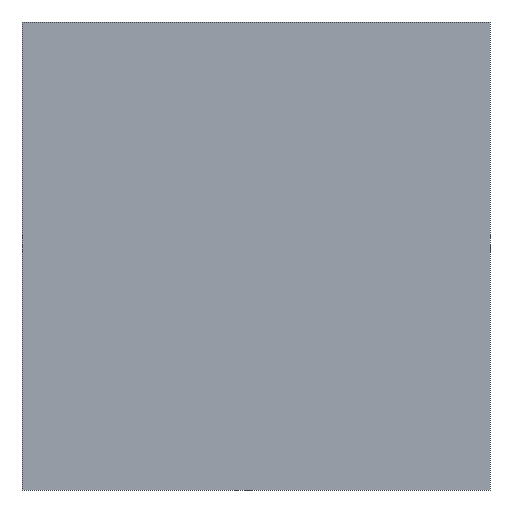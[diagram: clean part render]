
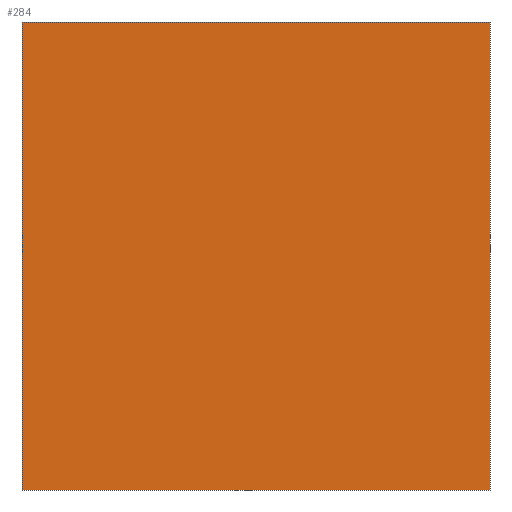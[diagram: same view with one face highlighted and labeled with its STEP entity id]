
A CAD part, left-side view. The second image highlights one B-rep face of the part: STEP entity #284.
In plain terms, the highlighted planar face has unit normal (-1, 0, 0).
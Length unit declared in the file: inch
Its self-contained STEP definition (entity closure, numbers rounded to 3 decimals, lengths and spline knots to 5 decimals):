
#22 = VERTEX_POINT('',#23);
#23 = CARTESIAN_POINT('',(-0.25,24.,24.));
#32 = PLANE('',#33);
#33 = AXIS2_PLACEMENT_3D('',#34,#35,#36);
#34 = CARTESIAN_POINT('',(-0.25,24.,24.));
#35 = DIRECTION('',(0.,1.,0.));
#36 = DIRECTION('',(0.,0.,-1.));
#44 = PLANE('',#45);
#45 = AXIS2_PLACEMENT_3D('',#46,#47,#48);
#46 = CARTESIAN_POINT('',(-0.25,-24.,24.));
#47 = DIRECTION('',(0.,0.,1.));
#48 = DIRECTION('',(0.,1.,0.));
#85 = VERTEX_POINT('',#86);
#86 = CARTESIAN_POINT('',(-0.25,24.,-24.));
#100 = PLANE('',#101);
#101 = AXIS2_PLACEMENT_3D('',#102,#103,#104);
#102 = CARTESIAN_POINT('',(-0.25,24.,-24.));
#103 = DIRECTION('',(0.,0.,-1.));
#104 = DIRECTION('',(0.,-1.,0.));
#112 = EDGE_CURVE('',#22,#85,#113,.T.);
#113 = SURFACE_CURVE('',#114,(#118,#125),.PCURVE_S1.);
#114 = LINE('',#115,#116);
#115 = CARTESIAN_POINT('',(-0.25,24.,24.));
#116 = VECTOR('',#117,0.03937);
#117 = DIRECTION('',(0.,0.,-1.));
#118 = PCURVE('',#32,#119);
#119 = DEFINITIONAL_REPRESENTATION('',(#120),#124);
#120 = LINE('',#121,#122);
#121 = CARTESIAN_POINT('',(0.,0.));
#122 = VECTOR('',#123,1.);
#123 = DIRECTION('',(1.,0.));
#124 = ( GEOMETRIC_REPRESENTATION_CONTEXT(2) 
PARAMETRIC_REPRESENTATION_CONTEXT() REPRESENTATION_CONTEXT('2D SPACE',''
  ) );
#125 = PCURVE('',#126,#131);
#126 = PLANE('',#127);
#127 = AXIS2_PLACEMENT_3D('',#128,#129,#130);
#128 = CARTESIAN_POINT('',(-0.25,24.,24.));
#129 = DIRECTION('',(1.,0.,0.));
#130 = DIRECTION('',(0.,1.,0.));
#131 = DEFINITIONAL_REPRESENTATION('',(#132),#136);
#132 = LINE('',#133,#134);
#133 = CARTESIAN_POINT('',(0.,0.));
#134 = VECTOR('',#135,1.);
#135 = DIRECTION('',(0.,-1.));
#136 = ( GEOMETRIC_REPRESENTATION_CONTEXT(2) 
PARAMETRIC_REPRESENTATION_CONTEXT() REPRESENTATION_CONTEXT('2D SPACE',''
  ) );
#142 = VERTEX_POINT('',#143);
#143 = CARTESIAN_POINT('',(-0.25,-24.,24.));
#159 = PLANE('',#160);
#160 = AXIS2_PLACEMENT_3D('',#161,#162,#163);
#161 = CARTESIAN_POINT('',(-0.25,-24.,-24.));
#162 = DIRECTION('',(0.,-1.,0.));
#163 = DIRECTION('',(0.,0.,1.));
#193 = EDGE_CURVE('',#142,#22,#194,.T.);
#194 = SURFACE_CURVE('',#195,(#199,#206),.PCURVE_S1.);
#195 = LINE('',#196,#197);
#196 = CARTESIAN_POINT('',(-0.25,-24.,24.));
#197 = VECTOR('',#198,0.03937);
#198 = DIRECTION('',(0.,1.,0.));
#199 = PCURVE('',#44,#200);
#200 = DEFINITIONAL_REPRESENTATION('',(#201),#205);
#201 = LINE('',#202,#203);
#202 = CARTESIAN_POINT('',(0.,0.));
#203 = VECTOR('',#204,1.);
#204 = DIRECTION('',(1.,0.));
#205 = ( GEOMETRIC_REPRESENTATION_CONTEXT(2) 
PARAMETRIC_REPRESENTATION_CONTEXT() REPRESENTATION_CONTEXT('2D SPACE',''
  ) );
#206 = PCURVE('',#126,#207);
#207 = DEFINITIONAL_REPRESENTATION('',(#208),#212);
#208 = LINE('',#209,#210);
#209 = CARTESIAN_POINT('',(-48.,0.));
#210 = VECTOR('',#211,1.);
#211 = DIRECTION('',(1.,0.));
#212 = ( GEOMETRIC_REPRESENTATION_CONTEXT(2) 
PARAMETRIC_REPRESENTATION_CONTEXT() REPRESENTATION_CONTEXT('2D SPACE',''
  ) );
#242 = VERTEX_POINT('',#243);
#243 = CARTESIAN_POINT('',(-0.25,-24.,-24.));
#264 = EDGE_CURVE('',#85,#242,#265,.T.);
#265 = SURFACE_CURVE('',#266,(#270,#277),.PCURVE_S1.);
#266 = LINE('',#267,#268);
#267 = CARTESIAN_POINT('',(-0.25,24.,-24.));
#268 = VECTOR('',#269,0.03937);
#269 = DIRECTION('',(0.,-1.,0.));
#270 = PCURVE('',#100,#271);
#271 = DEFINITIONAL_REPRESENTATION('',(#272),#276);
#272 = LINE('',#273,#274);
#273 = CARTESIAN_POINT('',(0.,0.));
#274 = VECTOR('',#275,1.);
#275 = DIRECTION('',(1.,0.));
#276 = ( GEOMETRIC_REPRESENTATION_CONTEXT(2) 
PARAMETRIC_REPRESENTATION_CONTEXT() REPRESENTATION_CONTEXT('2D SPACE',''
  ) );
#277 = PCURVE('',#126,#278);
#278 = DEFINITIONAL_REPRESENTATION('',(#279),#283);
#279 = LINE('',#280,#281);
#280 = CARTESIAN_POINT('',(0.,-48.));
#281 = VECTOR('',#282,1.);
#282 = DIRECTION('',(-1.,0.));
#283 = ( GEOMETRIC_REPRESENTATION_CONTEXT(2) 
PARAMETRIC_REPRESENTATION_CONTEXT() REPRESENTATION_CONTEXT('2D SPACE',''
  ) );
#284 = ADVANCED_FACE('',(#285),#126,.F.);
#285 = FACE_BOUND('',#286,.T.);
#286 = EDGE_LOOP('',(#287,#288,#289,#310));
#287 = ORIENTED_EDGE('',*,*,#112,.T.);
#288 = ORIENTED_EDGE('',*,*,#264,.T.);
#289 = ORIENTED_EDGE('',*,*,#290,.T.);
#290 = EDGE_CURVE('',#242,#142,#291,.T.);
#291 = SURFACE_CURVE('',#292,(#296,#303),.PCURVE_S1.);
#292 = LINE('',#293,#294);
#293 = CARTESIAN_POINT('',(-0.25,-24.,-24.));
#294 = VECTOR('',#295,0.03937);
#295 = DIRECTION('',(0.,0.,1.));
#296 = PCURVE('',#126,#297);
#297 = DEFINITIONAL_REPRESENTATION('',(#298),#302);
#298 = LINE('',#299,#300);
#299 = CARTESIAN_POINT('',(-48.,-48.));
#300 = VECTOR('',#301,1.);
#301 = DIRECTION('',(0.,1.));
#302 = ( GEOMETRIC_REPRESENTATION_CONTEXT(2) 
PARAMETRIC_REPRESENTATION_CONTEXT() REPRESENTATION_CONTEXT('2D SPACE',''
  ) );
#303 = PCURVE('',#159,#304);
#304 = DEFINITIONAL_REPRESENTATION('',(#305),#309);
#305 = LINE('',#306,#307);
#306 = CARTESIAN_POINT('',(0.,0.));
#307 = VECTOR('',#308,1.);
#308 = DIRECTION('',(1.,0.));
#309 = ( GEOMETRIC_REPRESENTATION_CONTEXT(2) 
PARAMETRIC_REPRESENTATION_CONTEXT() REPRESENTATION_CONTEXT('2D SPACE',''
  ) );
#310 = ORIENTED_EDGE('',*,*,#193,.T.);
